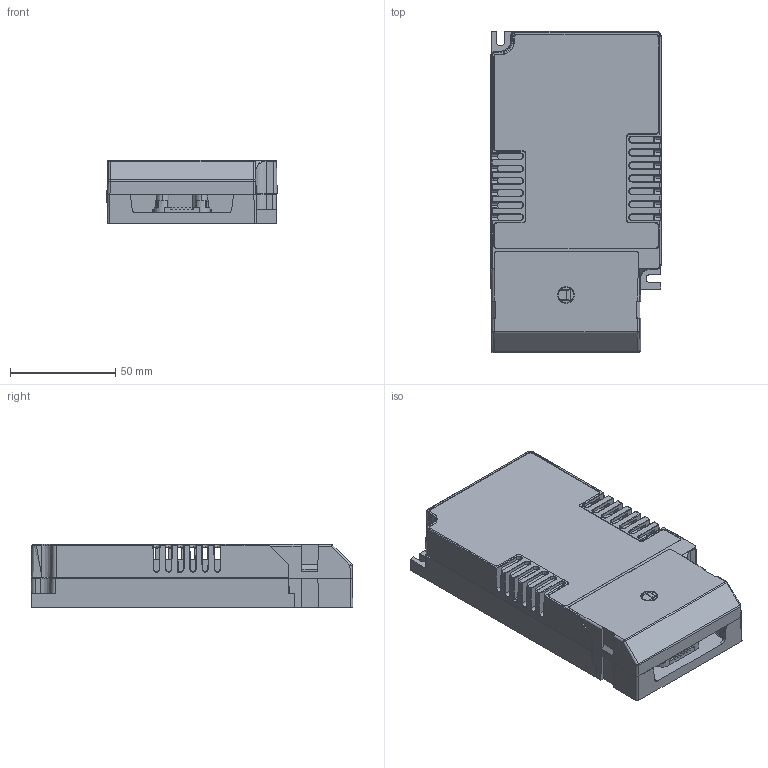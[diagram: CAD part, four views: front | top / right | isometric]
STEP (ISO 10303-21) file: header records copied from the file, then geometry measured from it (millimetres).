
FILE_DESCRIPTION (( 'STEP AP203' ), '1' );
FILE_NAME ('LC1x50-E-CC_3D_2.STEP', '2014-11-18T13:31:33', ( '' ), ( '' ), 'SwSTEP 2.0', 'SolidWorks 2014', '' );
FILE_SCHEMA (( 'CONFIG_CONTROL_DESIGN' ));
Length unit declared in the file: millimetre
Products named in the file (1): LC1x50-E-CC_3D_2
Bounding box: 81.09 x 153.13 x 30 mm (x, y, z)
Surface area: 67446.3 mm2 (no closed solid volume)
Topology: 0 solids, 8 shells, 822 faces, 2728 edges, 1793 vertices
Faces by surface type: cylinder 291, plane 263, bspline 186, cone 46, torus 36
Entity records: 35625 total; most frequent: CARTESIAN_POINT 14285, ORIENTED_EDGE 4535, DIRECTION 3966, EDGE_CURVE 2726, VERTEX_POINT 1793, LINE 1408, VECTOR 1408, AXIS2_PLACEMENT_3D 1279
